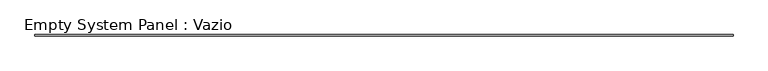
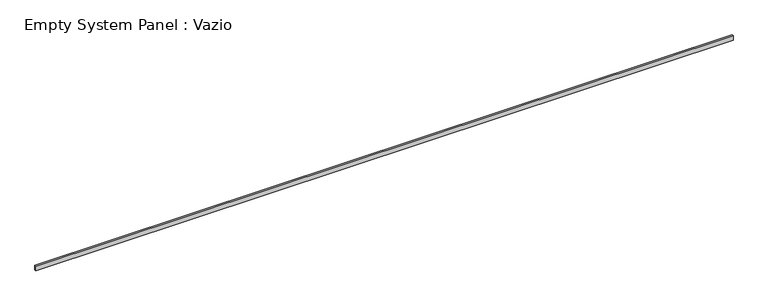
"""IFC4 building model written with IfcOpenShell, lengths in millimetres: plate geometry, Empty System Panel : Vazio."""

import ifcopenshell
import ifcopenshell.guid

model = None  # the IFC model being written
_history = None  # IfcOwnerHistory: only IFC2X3 demands one
_inside = {}  # id of a spatial element -> (the spatial element, [elements in it])
_under = {}  # id of a project, library or spatial element -> (it, [spatial elements below it])
_declared = {}  # id of a project -> (the project, [libraries it declares])
_typed = {}  # id of a type object -> (the type object, [elements of that type])
_made_of = {}  # id of a material, layer set ... -> (it, [elements and type objects made of it])


def new_model(schema):
    """Start an empty IFC model of exactly this schema.

    Asked for "IFC4X3", IfcOpenShell would pick the latest addendum, in which some entities
    have other attributes; the version numbers below select the first issue.
    IFC2X3 requires an IfcOwnerHistory on every rooted entity: one is made here for all.
    """
    global model, _history
    if schema == "IFC4X3":
        model = ifcopenshell.file(schema_version=(4, 3, 0, 0))
    else:
        model = ifcopenshell.file(schema=schema)
    _inside.clear()
    _under.clear()
    _declared.clear()
    _typed.clear()
    _made_of.clear()
    _history = None
    if model.schema == "IFC2X3":
        org = make("IfcOrganization", Name="unknown")
        user = make(
            "IfcPersonAndOrganization",
            ThePerson=make("IfcPerson", FamilyName="unknown"),
            TheOrganization=org,
        )
        app = make(
            "IfcApplication",
            ApplicationDeveloper=org,
            Version="unknown",
            ApplicationFullName="unknown",
            ApplicationIdentifier="unknown",
        )
        _history = make(
            "IfcOwnerHistory",
            OwningUser=user,
            OwningApplication=app,
            ChangeAction="ADDED",
            CreationDate=0,
        )
    return model


def make(cls, **values):
    """One entity of the class cls with the attributes given. An attribute that is None is left unset."""
    return model.create_entity(
        cls, **{name: value for name, value in values.items() if value is not None}
    )


def rooted(cls, **values):
    """An entity with a GlobalId (a new one), such as an element, a storey or a relation."""
    return make(cls, GlobalId=ifcopenshell.guid.new(), OwnerHistory=_history, **values)


def si_unit(unit_type, name, prefix=None):
    """IfcSIUnit, for example si_unit("LENGTHUNIT", "METRE", prefix="MILLI")."""
    return make("IfcSIUnit", UnitType=unit_type, Prefix=prefix, Name=name)


def assignment(units):
    """IfcUnitAssignment: the units of a project."""
    return None if units is None else make("IfcUnitAssignment", Units=units)


def point(xyz):
    """IfcCartesianPoint."""
    return None if xyz is None else make("IfcCartesianPoint", Coordinates=xyz)


def direction(xyz):
    """IfcDirection."""
    return None if xyz is None else make("IfcDirection", DirectionRatios=xyz)


def frame(location, z_axis=None, x_axis=None):
    """IfcAxis2Placement3D, a coordinate frame: its origin and axes. An axis left out is left unset."""
    return make(
        "IfcAxis2Placement3D",
        Location=point(location),
        Axis=direction(z_axis),
        RefDirection=direction(x_axis),
    )


def origin():
    """The frame at (0, 0, 0) with its axes left unset."""
    return frame((0.0, 0.0, 0.0))


def origin_with_axes():
    """The frame at (0, 0, 0) with the z axis (0, 0, 1) and the x axis (1, 0, 0) written out."""
    return frame((0.0, 0.0, 0.0), z_axis=(0.0, 0.0, 1.0), x_axis=(1.0, 0.0, 0.0))


def place(relative_to, where):
    """IfcLocalPlacement: puts the frame where relative to a parent placement (None: the world)."""
    return make(
        "IfcLocalPlacement", PlacementRelTo=relative_to, RelativePlacement=where
    )


def context(
    kind, dimensions, precision=None, world=None, true_north=None, identifier=None
):
    """IfcGeometricRepresentationContext, for example the 3D "Model" context."""
    return make(
        "IfcGeometricRepresentationContext",
        ContextIdentifier=identifier,
        ContextType=kind,
        CoordinateSpaceDimension=dimensions,
        Precision=precision,
        WorldCoordinateSystem=world,
        TrueNorth=true_north,
    )


def project(units=None, contexts=None):
    """IfcProject with its units and contexts."""
    return rooted(
        "IfcProject",
        Name="project",
        RepresentationContexts=contexts,
        UnitsInContext=assignment(units),
    )


def spatial(cls, under=None, at=None, **own):
    """A site, building, storey or space (cls), placed at a placement, below another one or the project."""
    s = rooted(cls, ObjectPlacement=at, **own)
    if under is not None:
        _under.setdefault(under.id(), (under, []))[1].append(s)
    return s


def polyline(points):
    """IfcPolyline through the points."""
    return make("IfcPolyline", Points=[point(p) for p in points])


def outline(outer, holes=None, kind="AREA"):
    """IfcArbitraryClosedProfileDef: a profile drawn as a closed curve; with holes, ...WithVoids."""
    if holes is None:
        return make("IfcArbitraryClosedProfileDef", ProfileType=kind, OuterCurve=outer)
    return make(
        "IfcArbitraryProfileDefWithVoids",
        ProfileType=kind,
        OuterCurve=outer,
        InnerCurves=holes,
    )


def extrude(swept, where, along, depth):
    """IfcExtrudedAreaSolid: the profile swept, set in the frame where, extruded along a direction by depth."""
    return make(
        "IfcExtrudedAreaSolid",
        SweptArea=swept,
        Position=where,
        ExtrudedDirection=direction(along),
        Depth=depth,
    )


def shape(context_of_items, identifier, shape_type, items):
    """IfcShapeRepresentation: the items that make up one representation, for example the "Body"."""
    return make(
        "IfcShapeRepresentation",
        ContextOfItems=context_of_items,
        RepresentationIdentifier=identifier,
        RepresentationType=shape_type,
        Items=items,
    )


def source(mapping_origin, context_of_items, identifier, shape_type, items):
    """IfcRepresentationMap: a shape defined once, which mapped items show again and again."""
    return make(
        "IfcRepresentationMap",
        MappingOrigin=mapping_origin,
        MappedRepresentation=shape(context_of_items, identifier, shape_type, items),
    )


def transform(
    local_origin,
    x_axis=None,
    y_axis=None,
    z_axis=None,
    scale=None,
    scale2=None,
    scale3=None,
    uniform=True,
):
    """IfcCartesianTransformationOperator3D, or its non-uniform kind. x_axis, y_axis, z_axis: its Axis1, 2, 3."""
    if uniform:
        return make(
            "IfcCartesianTransformationOperator3D",
            Axis1=direction(x_axis),
            Axis2=direction(y_axis),
            LocalOrigin=point(local_origin),
            Scale=scale,
            Axis3=direction(z_axis),
        )
    return make(
        "IfcCartesianTransformationOperator3DnonUniform",
        Axis1=direction(x_axis),
        Axis2=direction(y_axis),
        LocalOrigin=point(local_origin),
        Scale=scale,
        Axis3=direction(z_axis),
        Scale2=scale2,
        Scale3=scale3,
    )


def mapped(mapping_source, mapping_target):
    """IfcMappedItem: shows the shape of a source again, moved by a transform."""
    return make(
        "IfcMappedItem", MappingSource=mapping_source, MappingTarget=mapping_target
    )


def made_of(thing, what):
    """Note that an element or type object is made of a material, layer set ...; save() writes the relation."""
    if what is not None:
        _made_of.setdefault(what.id(), (what, []))[1].append(thing)
    return thing


def element(
    cls,
    number,
    at=None,
    inside=None,
    cuts=None,
    type_object=None,
    material=None,
    context=None,
    identifier="Body",
    shape_type=None,
    held_by="IfcProductDefinitionShape",
    body=None,
    shapes=None,
    **own,
):
    """One element of the class cls, such as IfcWall. Its Tag is "e" and its number.

    at: its placement. inside: the storey or other place that contains it. cuts: it is an
    opening in that element (IfcRelVoidsElement). A single representation is given by context,
    identifier, shape_type and body (its items); several are given by shapes. held_by: the class
    of the entity that holds the representations. save() writes the other relations.
    """
    e = rooted(cls, Tag="e%d" % number, ObjectPlacement=at, **own)
    if body is not None:
        shapes = [shape(context, identifier, shape_type, body)]
    if shapes is not None:
        e.Representation = make(held_by, Representations=shapes)
    if inside is not None:
        _inside.setdefault(inside.id(), (inside, []))[1].append(e)
    if cuts is not None:
        rooted(
            "IfcRelVoidsElement", RelatingBuildingElement=cuts, RelatedOpeningElement=e
        )
    if type_object is not None:
        _typed.setdefault(type_object.id(), (type_object, []))[1].append(e)
    return made_of(e, material)


def aggregate(whole, parts):
    """IfcRelAggregates: a whole, such as a stair, and the parts it consists of."""
    return rooted("IfcRelAggregates", RelatingObject=whole, RelatedObjects=parts)


def save(model, path):
    """Write the relations noted so far, then the file.

    IfcRelAggregates (storeys below a building ...), IfcRelContainedInSpatialStructure (elements
    in a storey), IfcRelDefinesByType, IfcRelAssociatesMaterial and IfcRelDeclares: one each for
    every whole, place, type object, material and project.
    """
    for whole, parts in _under.values():
        aggregate(whole, parts)
    for where, things in _inside.values():
        rooted(
            "IfcRelContainedInSpatialStructure",
            RelatedElements=things,
            RelatingStructure=where,
        )
    for kind, things in _typed.values():
        rooted("IfcRelDefinesByType", RelatedObjects=things, RelatingType=kind)
    for what, things in _made_of.values():
        rooted("IfcRelAssociatesMaterial", RelatedObjects=things, RelatingMaterial=what)
    for by, libraries in _declared.values():
        rooted("IfcRelDeclares", RelatingContext=by, RelatedDefinitions=libraries)
    model.write(path)


def empty_system_panel_vazio_226a38a9(model_context):
    return source(origin(), model_context, "Body", "SweptSolid", [
        extrude(outline(polyline([(23460.2135497, 50.0), (-23460.2135497, 50.0), (-23460.2135497, 150.0), (23460.2135497, 150.0), (23460.2135497, 50.0)])), origin_with_axes(), (0.0, 0.0, 1.0), 330.0829227),
    ])


if __name__ == "__main__":
    model = new_model("IFC4")
    model_context = context("Model", 3, world=origin())
    ifc_project = project(units=[si_unit("LENGTHUNIT", "METRE", prefix="MILLI")], contexts=[model_context])
    site = spatial("IfcSite", under=ifc_project)
    building = spatial("IfcBuilding", under=site)
    placement = place(None, origin())
    empty_system_panel_vazio_shape = empty_system_panel_vazio_226a38a9(model_context)
    element("IfcPlate", 1, ObjectType="Empty System Panel : Vazio", at=placement, inside=building, context=model_context, shape_type="MappedRepresentation", body=[
        mapped(empty_system_panel_vazio_shape, transform((0.0, 0.0, 0.0), x_axis=(1.0, 0.0, 0.0), y_axis=(0.0, 1.0, 0.0), z_axis=(0.0, 0.0, 1.0))),
    ])
    save(model, "model.ifc")
